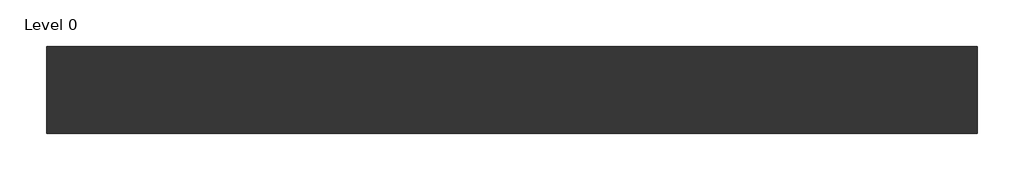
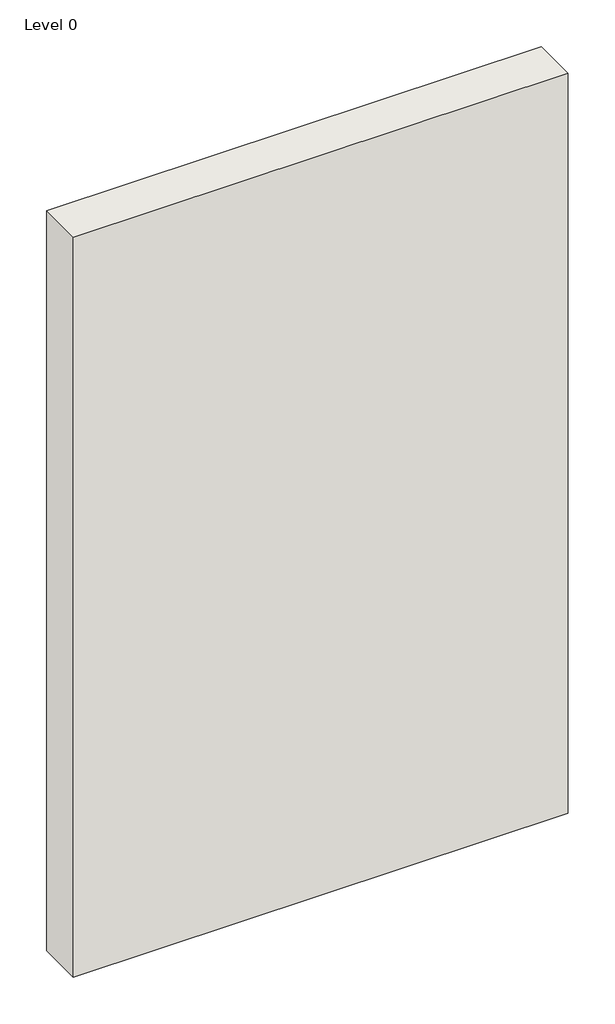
# One storey: 1 wall.
"""IFC4 building model written with IfcOpenShell, lengths in millimetres."""

from ifc_helpers import new_model, si_unit, origin, origin_with_axes, place, context, project, spatial, polyline, outline, extrude, element, save

model = new_model("IFC4")

# Units and contexts
model_context = context("Model", 3, world=origin())
ifc_project = project(units=[si_unit("LENGTHUNIT", "METRE", prefix="MILLI")], contexts=[model_context])

# Site, building, storey
site = spatial("IfcSite", under=ifc_project)
building = spatial("IfcBuilding", under=site)
storey = spatial("IfcBuildingStorey", under=building, Name="Level 0", Elevation=0.0)

# Wall
placement = place(None, origin())
element("IfcWall", 1, ObjectType="A036002 - GypWall Classic", at=placement, inside=storey, context=model_context, shape_type="SweptSolid", body=[
    extrude(outline(polyline([(1155.997948, 410.2669953), (-1944.002052, 410.2669953), (-1944.002052, 700.2669953), (1155.997948, 700.2669953), (1155.997948, 410.2669953)])), origin_with_axes(), (0.0, 0.0, 1.0), 4900.0),
])

save(model, "model.ifc")
